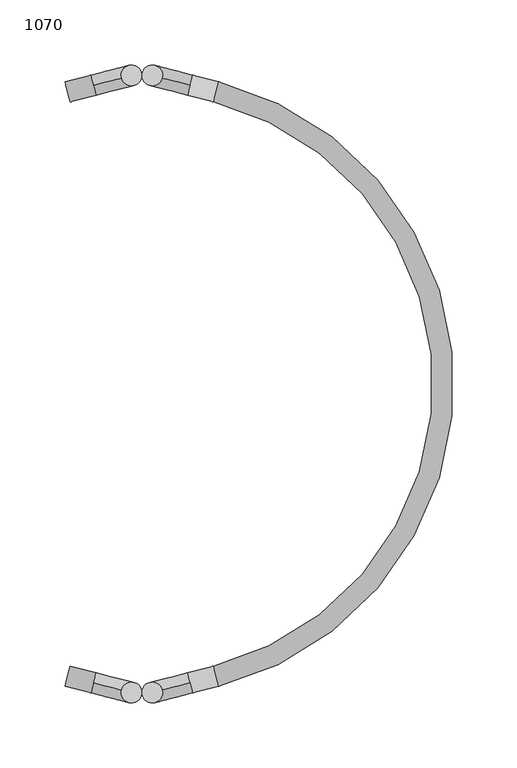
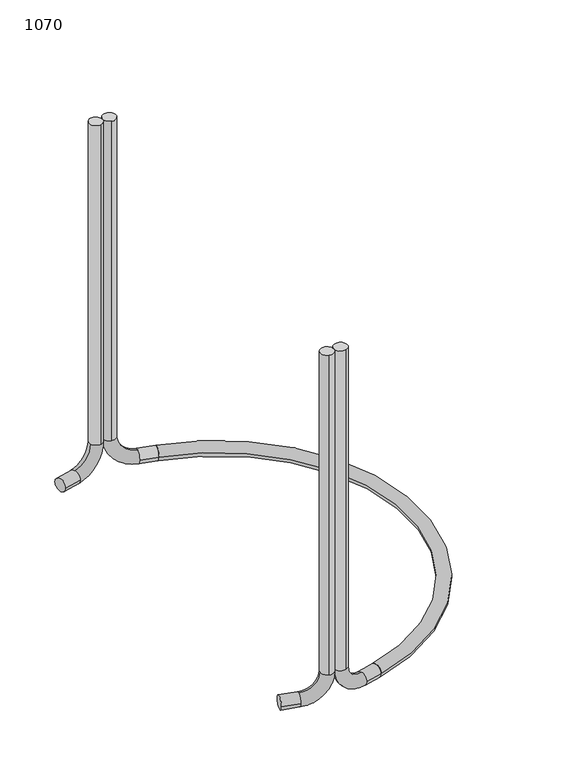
"""IFC4 building model written with IfcOpenShell, lengths in millimetres: proxy geometry, 1070."""

from ifc_helpers import new_model, si_unit, point, frame, origin, place, context, project, spatial, circle_curve, ellipse_curve, trimmed, source, transform, mapped, element, save
from ifc_brep_helpers import plane_surface, cylinder_surface, revolved_surface, advanced_brep


def proxy_1070_40b6016d(model_context):
    return source(origin(), model_context, "Body", "AdvancedBrep", [
        advanced_brep(
        [(-5.9796926, 229.4517589, -101.6), (-5.9796926, 229.4517589, -501.65), (-0.2452379, 239.1018285, -501.65), (-9.8953074, 244.8362832, -501.65), (-9.8953074, 244.8362832, -101.6), (-37.168096, 229.7043527, -539.75), (-39.1259034, 237.3966149, -531.8125), (-37.168096, 229.7043527, -523.875), (-15.6297621, 235.1862136, -501.65), (-35.2102885, 222.0120906, -531.8125), (-55.21017, 216.9217913, -531.8125), (-59.1257849, 232.3063155, -531.8125)],
        [
            (0, 1),
            (1, 2, circle_curve(frame((-7.9375, 237.144021, -501.65), z_axis=(0.0, 0.0, 1.0), x_axis=(0.24665290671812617, -0.9691038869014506, 0.0)), 7.9375)),
            (2, 3, circle_curve(frame((-7.9375, 237.144021, -501.65), z_axis=(0.0, 0.0, 1.0), x_axis=(0.24665290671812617, -0.9691038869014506, 0.0)), 7.9375)),
            (3, 4),
            (4, 0, circle_curve(frame((-7.9375, 237.144021, -101.6), z_axis=(0.0, 0.0, -1.0), x_axis=(0.24665290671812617, -0.9691038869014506, 0.0)), 7.9375)),
            (2, 5, circle_curve(frame((-37.168096, 229.7043527, -501.65), z_axis=(-0.24665290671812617, 0.9691038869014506, 0.0), x_axis=(0.9691038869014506, 0.24665290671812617, 0.0)), 38.1)),
            (5, 6, circle_curve(frame((-37.168096, 229.7043527, -531.8125), z_axis=(0.9691038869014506, 0.24665290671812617, 0.0), x_axis=(0.0, 0.0, -1.0)), 7.9375)),
            (6, 7, circle_curve(frame((-37.168096, 229.7043527, -531.8125), z_axis=(0.9691038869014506, 0.24665290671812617, 0.0), x_axis=(0.0, 0.0, -1.0)), 7.9375)),
            (7, 8, circle_curve(frame((-37.168096, 229.7043527, -501.65), z_axis=(0.24665290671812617, -0.9691038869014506, 0.0), x_axis=(0.9691038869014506, 0.24665290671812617, 0.0)), 22.225)),
            (8, 3, circle_curve(frame((-7.9375, 237.144021, -501.65), z_axis=(0.0, 0.0, -1.0), x_axis=(0.9691038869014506, 0.24665290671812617, 0.0)), 7.9375)),
            (9, 10),
            (10, 11, circle_curve(frame((-57.1679775, 224.6140534, -531.8125), z_axis=(0.9691038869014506, 0.24665290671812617, 0.0), x_axis=(0.24665290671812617, -0.9691038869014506, 0.0)), 7.9375)),
            (11, 6),
            (5, 9, circle_curve(frame((-37.168096, 229.7043527, -531.8125), z_axis=(-0.9691038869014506, -0.24665290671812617, 0.0), x_axis=(0.24665290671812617, -0.9691038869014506, 0.0)), 7.9375)),
            (9, 7, circle_curve(frame((-37.168096, 229.7043527, -531.8125), z_axis=(-0.9691038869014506, -0.24665290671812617, 0.0), x_axis=(0.24665290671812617, -0.9691038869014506, 0.0)), 7.9375)),
            (11, 10, circle_curve(frame((-57.1679775, 224.6140534, -531.8125), z_axis=(0.9691038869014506, 0.24665290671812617, 0.0), x_axis=(0.24665290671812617, -0.9691038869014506, 0.0)), 7.9375)),
            (1, 8, circle_curve(frame((-7.9375, 237.144021, -501.65), z_axis=(0.0, 0.0, -1.0), x_axis=(0.9691038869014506, 0.24665290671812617, 0.0)), 7.9375)),
            (0, 4, circle_curve(frame((-7.9375, 237.144021, -101.6), z_axis=(0.0, 0.0, -1.0), x_axis=(0.24665290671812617, -0.9691038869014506, 0.0)), 7.9375)),
        ],
        [
            cylinder_surface(frame((-7.9375, 237.144021, -101.6), z_axis=(0.0, 0.0, -1.0), x_axis=(0.24665290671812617, -0.9691038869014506, 0.0)), 7.9375),
            revolved_surface(trimmed(ellipse_curve(frame((-7.9375, 237.144021, -501.65), z_axis=(0.0, 0.0, 1.0), x_axis=(0.9691038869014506, 0.24665290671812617, 0.0)), 7.9375, 7.9375), [point((-0.2452379, 239.1018285, -501.65))], [point((-15.6297621, 235.1862136, -501.65))], True, "CARTESIAN"), (-37.168096, 229.7043527, -501.65), (-0.24665290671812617, 0.9691038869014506, 0.0)),
            cylinder_surface(frame((-37.168096, 229.7043527, -531.8125), z_axis=(-0.9691038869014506, -0.24665290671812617, 0.0), x_axis=(0.24665290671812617, -0.9691038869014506, 0.0)), 7.9375),
            revolved_surface(trimmed(ellipse_curve(frame((-7.9375, 237.144021, -501.65), z_axis=(0.0, 0.0, 1.0), x_axis=(0.9691038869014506, 0.24665290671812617, 0.0)), 7.9375, 7.9375), [point((-15.6297621, 235.1862136, -501.65))], [point((-0.2452379, 239.1018285, -501.65))], True, "CARTESIAN"), (-37.168096, 229.7043527, -501.65), (-0.24665290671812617, 0.9691038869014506, 0.0)),
            plane_surface(frame((-57.1679775, 224.6140534, -531.8125), z_axis=(-0.9691038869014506, -0.24665290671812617, 0.0), x_axis=(0.0, 0.0, -1.0))),
            plane_surface(frame((-7.9375, 237.144021, -101.6), z_axis=(0.0, 0.0, 1.0), x_axis=(0.9691038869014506, 0.24665290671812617, 0.0))),
        ],
        [
            (0, [[1, 2, 3, 4, 5]]),
            (1, [[6, 7, 8, 9, 10, -3]]),
            (2, [[11, 12, 13, -7, 14]]),
            (2, [[-11, 15, -8, -13, 16]]),
            (3, [[-6, -2, 17, -9, -15, -14]]),
            (0, [[-1, 18, -4, -10, -17]]),
            (4, [[-16, -12]]),
            (5, [[-5, -18]]),
        ],
    ),
        advanced_brep(
        [(-9.8953074, -244.8362832, -101.6), (-9.8953074, -244.8362832, -501.65), (-0.2452379, -239.1018285, -501.65), (-5.9796926, -229.4517589, -501.65), (-5.9796926, -229.4517589, -101.6), (-37.168096, -229.7043527, -539.75), (-35.2102885, -222.0120906, -531.8125), (-37.168096, -229.7043527, -523.875), (-15.6297621, -235.1862136, -501.65), (-39.1259034, -237.3966149, -531.8125), (-59.1257849, -232.3063155, -531.8125), (-55.21017, -216.9217913, -531.8125)],
        [
            (0, 1),
            (1, 2, circle_curve(frame((-7.9375, -237.144021, -501.65), z_axis=(0.0, 0.0, 1.0), x_axis=(-0.24665290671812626, -0.9691038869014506, 0.0)), 7.9375)),
            (2, 3, circle_curve(frame((-7.9375, -237.144021, -501.65), z_axis=(0.0, 0.0, 1.0), x_axis=(-0.24665290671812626, -0.9691038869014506, 0.0)), 7.9375)),
            (3, 4),
            (4, 0, circle_curve(frame((-7.9375, -237.144021, -101.6), z_axis=(0.0, 0.0, -1.0), x_axis=(-0.24665290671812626, -0.9691038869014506, 0.0)), 7.9375)),
            (2, 5, circle_curve(frame((-37.168096, -229.7043527, -501.65), z_axis=(0.24665290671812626, 0.9691038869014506, 0.0), x_axis=(0.9691038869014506, -0.24665290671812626, 0.0)), 38.1)),
            (5, 6, circle_curve(frame((-37.168096, -229.7043527, -531.8125), z_axis=(0.9691038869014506, -0.24665290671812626, 0.0), x_axis=(0.0, 0.0, -1.0)), 7.9375)),
            (6, 7, circle_curve(frame((-37.168096, -229.7043527, -531.8125), z_axis=(0.9691038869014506, -0.24665290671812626, 0.0), x_axis=(0.0, 0.0, -1.0)), 7.9375)),
            (7, 8, circle_curve(frame((-37.168096, -229.7043527, -501.65), z_axis=(-0.24665290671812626, -0.9691038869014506, 0.0), x_axis=(0.9691038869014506, -0.24665290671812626, 0.0)), 22.225)),
            (8, 3, circle_curve(frame((-7.9375, -237.144021, -501.65), z_axis=(0.0, 0.0, -1.0), x_axis=(0.9691038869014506, -0.24665290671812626, 0.0)), 7.9375)),
            (9, 10),
            (10, 11, circle_curve(frame((-57.1679775, -224.6140534, -531.8125), z_axis=(0.9691038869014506, -0.24665290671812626, 0.0), x_axis=(-0.24665290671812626, -0.9691038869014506, 0.0)), 7.9375)),
            (11, 6),
            (5, 9, circle_curve(frame((-37.168096, -229.7043527, -531.8125), z_axis=(-0.9691038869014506, 0.24665290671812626, 0.0), x_axis=(-0.24665290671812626, -0.9691038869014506, 0.0)), 7.9375)),
            (9, 7, circle_curve(frame((-37.168096, -229.7043527, -531.8125), z_axis=(-0.9691038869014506, 0.24665290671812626, 0.0), x_axis=(-0.24665290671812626, -0.9691038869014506, 0.0)), 7.9375)),
            (11, 10, circle_curve(frame((-57.1679775, -224.6140534, -531.8125), z_axis=(0.9691038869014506, -0.24665290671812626, 0.0), x_axis=(-0.24665290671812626, -0.9691038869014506, 0.0)), 7.9375)),
            (1, 8, circle_curve(frame((-7.9375, -237.144021, -501.65), z_axis=(0.0, 0.0, -1.0), x_axis=(0.9691038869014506, -0.24665290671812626, 0.0)), 7.9375)),
            (0, 4, circle_curve(frame((-7.9375, -237.144021, -101.6), z_axis=(0.0, 0.0, -1.0), x_axis=(-0.24665290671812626, -0.9691038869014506, 0.0)), 7.9375)),
        ],
        [
            cylinder_surface(frame((-7.9375, -237.144021, -101.6), z_axis=(0.0, 0.0, -1.0), x_axis=(-0.24665290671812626, -0.9691038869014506, 0.0)), 7.9375),
            revolved_surface(trimmed(ellipse_curve(frame((-7.9375, -237.144021, -501.65), z_axis=(0.0, 0.0, 1.0), x_axis=(0.9691038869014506, -0.24665290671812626, 0.0)), 7.9375, 7.9375), [point((-0.2452379, -239.1018285, -501.65))], [point((-15.6297621, -235.1862136, -501.65))], True, "CARTESIAN"), (-37.168096, -229.7043527, -501.65), (0.24665290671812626, 0.9691038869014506, 0.0)),
            cylinder_surface(frame((-37.168096, -229.7043527, -531.8125), z_axis=(-0.9691038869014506, 0.24665290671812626, 0.0), x_axis=(-0.24665290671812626, -0.9691038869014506, 0.0)), 7.9375),
            revolved_surface(trimmed(ellipse_curve(frame((-7.9375, -237.144021, -501.65), z_axis=(0.0, 0.0, 1.0), x_axis=(0.9691038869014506, -0.24665290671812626, 0.0)), 7.9375, 7.9375), [point((-15.6297621, -235.1862136, -501.65))], [point((-0.2452379, -239.1018285, -501.65))], True, "CARTESIAN"), (-37.168096, -229.7043527, -501.65), (0.24665290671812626, 0.9691038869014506, 0.0)),
            plane_surface(frame((-57.1679775, -224.6140534, -531.8125), z_axis=(-0.9691038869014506, 0.24665290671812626, 0.0), x_axis=(0.0, 0.0, -1.0))),
            plane_surface(frame((-7.9375, -237.144021, -101.6), z_axis=(0.0, 0.0, 1.0), x_axis=(0.9691038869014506, -0.24665290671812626, 0.0))),
        ],
        [
            (0, [[1, 2, 3, 4, 5]]),
            (1, [[6, 7, 8, 9, 10, -3]]),
            (2, [[11, 12, 13, -7, 14]]),
            (2, [[-11, 15, -8, -13, 16]]),
            (3, [[-6, -2, 17, -9, -15, -14]]),
            (0, [[-1, 18, -4, -10, -17]]),
            (4, [[-16, -12]]),
            (5, [[-5, -18]]),
        ],
    ),
        advanced_brep(
        [(59.1257849, 232.3063155, -531.8125), (59.1257849, -232.3063155, -531.8125), (55.21017, -216.9217913, -531.8125), (55.21017, 216.9217913, -531.8125)],
        [
            (0, 1, circle_curve(frame((0.0, 0.0, -531.8125), z_axis=(0.0, 0.0, -1.0), x_axis=(0.24665290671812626, 0.9691038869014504, 0.0)), 239.7125)),
            (1, 2, circle_curve(frame((57.1679775, -224.6140534, -531.8125), z_axis=(0.9691038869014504, 0.2466529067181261, 0.0), x_axis=(0.2466529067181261, -0.9691038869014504, 0.0)), 7.9375)),
            (2, 3, circle_curve(frame((0.0, 0.0, -531.8125), z_axis=(0.0, 0.0, 1.0), x_axis=(0.24665290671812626, 0.9691038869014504, 0.0)), 223.8375)),
            (3, 0, circle_curve(frame((57.1679775, 224.6140534, -531.8125), z_axis=(0.9691038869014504, -0.24665290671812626, 0.0), x_axis=(0.24665290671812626, 0.9691038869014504, 0.0)), 7.9375)),
            (1, 2, circle_curve(frame((57.1679775, -224.6140534, -531.8125), z_axis=(-0.9691038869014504, -0.2466529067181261, 0.0), x_axis=(0.2466529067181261, -0.9691038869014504, 0.0)), 7.9375)),
            (3, 0, circle_curve(frame((57.1679775, 224.6140534, -531.8125), z_axis=(-0.9691038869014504, 0.24665290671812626, 0.0), x_axis=(0.24665290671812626, 0.9691038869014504, 0.0)), 7.9375)),
        ],
        [
            revolved_surface(trimmed(ellipse_curve(frame((57.1679775, 224.6140534, -531.8125), z_axis=(-0.9691038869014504, 0.24665290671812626, 0.0), x_axis=(0.24665290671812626, 0.9691038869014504, 0.0)), 7.9375, 7.9375), [point((59.1257849, 232.3063155, -531.8125))], [point((55.21017, 216.9217913, -531.8125))], True, "CARTESIAN"), (0.0, 0.0, -531.8125), (0.0, 0.0, -1.0)),
            plane_surface(frame((61.0107809, -239.7125, -531.8125), z_axis=(-0.9691038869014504, -0.24665290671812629, 0.0), x_axis=(-0.24665290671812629, 0.9691038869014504, 0.0))),
            plane_surface(frame((0.0, 0.0, -531.8125), z_axis=(-0.9691038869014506, 0.24665290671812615, 0.0), x_axis=(0.24665290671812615, 0.9691038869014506, 0.0))),
            revolved_surface(trimmed(ellipse_curve(frame((57.1679775, 224.6140534, -531.8125), z_axis=(-0.9691038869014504, 0.24665290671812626, 0.0), x_axis=(0.24665290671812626, 0.9691038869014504, 0.0)), 7.9375, 7.9375), [point((55.21017, 216.9217913, -531.8125))], [point((59.1257849, 232.3063155, -531.8125))], True, "CARTESIAN"), (0.0, 0.0, -531.8125), (0.0, 0.0, -1.0)),
        ],
        [
            (0, [[1, 2, 3, 4]]),
            (1, [[5, -2]]),
            (2, [[-4, 6]]),
            (3, [[-1, -6, -3, -5]]),
        ],
    ),
        advanced_brep(
        [(5.9796926, -229.4517589, -101.6), (5.9796926, -229.4517589, -501.65), (0.2452379, -239.1018285, -501.65), (9.8953074, -244.8362832, -501.65), (9.8953074, -244.8362832, -101.6), (37.168096, -229.7043527, -539.75), (39.1259034, -237.3966149, -531.8125), (37.168096, -229.7043527, -523.875), (15.6297621, -235.1862136, -501.65), (35.2102885, -222.0120906, -531.8125), (55.21017, -216.9217913, -531.8125), (59.1257849, -232.3063155, -531.8125)],
        [
            (0, 1),
            (1, 2, circle_curve(frame((7.9375, -237.144021, -501.65), z_axis=(0.0, 0.0, 1.0), x_axis=(-0.24665290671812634, 0.9691038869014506, 0.0)), 7.9375)),
            (2, 3, circle_curve(frame((7.9375, -237.144021, -501.65), z_axis=(0.0, 0.0, 1.0), x_axis=(-0.24665290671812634, 0.9691038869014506, 0.0)), 7.9375)),
            (3, 4),
            (4, 0, circle_curve(frame((7.9375, -237.144021, -101.6), z_axis=(0.0, 0.0, -1.0), x_axis=(-0.24665290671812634, 0.9691038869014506, 0.0)), 7.9375)),
            (2, 5, circle_curve(frame((37.168096, -229.7043527, -501.65), z_axis=(0.24665290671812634, -0.9691038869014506, 0.0), x_axis=(-0.9691038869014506, -0.24665290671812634, 0.0)), 38.1)),
            (5, 6, circle_curve(frame((37.168096, -229.7043527, -531.8125), z_axis=(-0.9691038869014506, -0.24665290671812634, 0.0), x_axis=(0.0, 0.0, -1.0)), 7.9375)),
            (6, 7, circle_curve(frame((37.168096, -229.7043527, -531.8125), z_axis=(-0.9691038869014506, -0.24665290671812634, 0.0), x_axis=(0.0, 0.0, -1.0)), 7.9375)),
            (7, 8, circle_curve(frame((37.168096, -229.7043527, -501.65), z_axis=(-0.24665290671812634, 0.9691038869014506, 0.0), x_axis=(-0.9691038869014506, -0.24665290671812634, 0.0)), 22.225)),
            (8, 3, circle_curve(frame((7.9375, -237.144021, -501.65), z_axis=(0.0, 0.0, -1.0), x_axis=(-0.9691038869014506, -0.24665290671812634, 0.0)), 7.9375)),
            (9, 10),
            (10, 11, circle_curve(frame((57.1679775, -224.6140534, -531.8125), z_axis=(-0.9691038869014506, -0.24665290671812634, 0.0), x_axis=(-0.24665290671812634, 0.9691038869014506, 0.0)), 7.9375)),
            (11, 6),
            (5, 9, circle_curve(frame((37.168096, -229.7043527, -531.8125), z_axis=(0.9691038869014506, 0.24665290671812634, 0.0), x_axis=(-0.24665290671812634, 0.9691038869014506, 0.0)), 7.9375)),
            (9, 7, circle_curve(frame((37.168096, -229.7043527, -531.8125), z_axis=(0.9691038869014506, 0.24665290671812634, 0.0), x_axis=(-0.24665290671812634, 0.9691038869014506, 0.0)), 7.9375)),
            (11, 10, circle_curve(frame((57.1679775, -224.6140534, -531.8125), z_axis=(-0.9691038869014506, -0.24665290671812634, 0.0), x_axis=(-0.24665290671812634, 0.9691038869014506, 0.0)), 7.9375)),
            (1, 8, circle_curve(frame((7.9375, -237.144021, -501.65), z_axis=(0.0, 0.0, -1.0), x_axis=(-0.9691038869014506, -0.24665290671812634, 0.0)), 7.9375)),
            (0, 4, circle_curve(frame((7.9375, -237.144021, -101.6), z_axis=(0.0, 0.0, -1.0), x_axis=(-0.24665290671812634, 0.9691038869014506, 0.0)), 7.9375)),
        ],
        [
            cylinder_surface(frame((7.9375, -237.144021, -101.6), z_axis=(0.0, 0.0, -1.0), x_axis=(-0.24665290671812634, 0.9691038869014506, 0.0)), 7.9375),
            revolved_surface(trimmed(ellipse_curve(frame((7.9375, -237.144021, -501.65), z_axis=(0.0, 0.0, 1.0), x_axis=(-0.9691038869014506, -0.24665290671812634, 0.0)), 7.9375, 7.9375), [point((0.2452379, -239.1018285, -501.65))], [point((15.6297621, -235.1862136, -501.65))], True, "CARTESIAN"), (37.168096, -229.7043527, -501.65), (0.24665290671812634, -0.9691038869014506, 0.0)),
            cylinder_surface(frame((37.168096, -229.7043527, -531.8125), z_axis=(0.9691038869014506, 0.24665290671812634, 0.0), x_axis=(-0.24665290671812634, 0.9691038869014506, 0.0)), 7.9375),
            revolved_surface(trimmed(ellipse_curve(frame((7.9375, -237.144021, -501.65), z_axis=(0.0, 0.0, 1.0), x_axis=(-0.9691038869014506, -0.24665290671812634, 0.0)), 7.9375, 7.9375), [point((15.6297621, -235.1862136, -501.65))], [point((0.2452379, -239.1018285, -501.65))], True, "CARTESIAN"), (37.168096, -229.7043527, -501.65), (0.24665290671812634, -0.9691038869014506, 0.0)),
            plane_surface(frame((57.1679775, -224.6140534, -531.8125), z_axis=(0.9691038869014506, 0.24665290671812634, 0.0), x_axis=(0.0, 0.0, -1.0))),
            plane_surface(frame((7.9375, -237.144021, -101.6), z_axis=(0.0, 0.0, 1.0), x_axis=(-0.9691038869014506, -0.24665290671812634, 0.0))),
        ],
        [
            (0, [[1, 2, 3, 4, 5]]),
            (1, [[6, 7, 8, 9, 10, -3]]),
            (2, [[11, 12, 13, -7, 14]]),
            (2, [[-11, 15, -8, -13, 16]]),
            (3, [[-6, -2, 17, -9, -15, -14]]),
            (0, [[-1, 18, -4, -10, -17]]),
            (4, [[-16, -12]]),
            (5, [[-5, -18]]),
        ],
    ),
        advanced_brep(
        [(9.8953074, 244.8362832, -101.6), (9.8953074, 244.8362832, -501.65), (0.2452379, 239.1018285, -501.65), (5.9796926, 229.4517589, -501.65), (5.9796926, 229.4517589, -101.6), (37.168096, 229.7043527, -539.75), (35.2102885, 222.0120906, -531.8125), (37.168096, 229.7043527, -523.875), (15.6297621, 235.1862136, -501.65), (39.1259034, 237.3966149, -531.8125), (59.1257849, 232.3063155, -531.8125), (55.21017, 216.9217913, -531.8125)],
        [
            (0, 1),
            (1, 2, circle_curve(frame((7.9375, 237.144021, -501.65), z_axis=(0.0, 0.0, 1.0), x_axis=(0.2466529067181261, 0.9691038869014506, 0.0)), 7.9375)),
            (2, 3, circle_curve(frame((7.9375, 237.144021, -501.65), z_axis=(0.0, 0.0, 1.0), x_axis=(0.2466529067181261, 0.9691038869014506, 0.0)), 7.9375)),
            (3, 4),
            (4, 0, circle_curve(frame((7.9375, 237.144021, -101.6), z_axis=(0.0, 0.0, -1.0), x_axis=(0.2466529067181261, 0.9691038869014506, 0.0)), 7.9375)),
            (2, 5, circle_curve(frame((37.168096, 229.7043527, -501.65), z_axis=(-0.2466529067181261, -0.9691038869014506, 0.0), x_axis=(-0.9691038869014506, 0.2466529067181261, 0.0)), 38.1)),
            (5, 6, circle_curve(frame((37.168096, 229.7043527, -531.8125), z_axis=(-0.9691038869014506, 0.2466529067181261, 0.0), x_axis=(0.0, 0.0, -1.0)), 7.9375)),
            (6, 7, circle_curve(frame((37.168096, 229.7043527, -531.8125), z_axis=(-0.9691038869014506, 0.2466529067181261, 0.0), x_axis=(0.0, 0.0, -1.0)), 7.9375)),
            (7, 8, circle_curve(frame((37.168096, 229.7043527, -501.65), z_axis=(0.2466529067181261, 0.9691038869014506, 0.0), x_axis=(-0.9691038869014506, 0.2466529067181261, 0.0)), 22.225)),
            (8, 3, circle_curve(frame((7.9375, 237.144021, -501.65), z_axis=(0.0, 0.0, -1.0), x_axis=(-0.9691038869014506, 0.2466529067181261, 0.0)), 7.9375)),
            (9, 10),
            (10, 11, circle_curve(frame((57.1679775, 224.6140534, -531.8125), z_axis=(-0.9691038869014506, 0.2466529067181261, 0.0), x_axis=(0.2466529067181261, 0.9691038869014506, 0.0)), 7.9375)),
            (11, 6),
            (5, 9, circle_curve(frame((37.168096, 229.7043527, -531.8125), z_axis=(0.9691038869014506, -0.2466529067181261, 0.0), x_axis=(0.2466529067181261, 0.9691038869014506, 0.0)), 7.9375)),
            (9, 7, circle_curve(frame((37.168096, 229.7043527, -531.8125), z_axis=(0.9691038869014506, -0.2466529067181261, 0.0), x_axis=(0.2466529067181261, 0.9691038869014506, 0.0)), 7.9375)),
            (11, 10, circle_curve(frame((57.1679775, 224.6140534, -531.8125), z_axis=(-0.9691038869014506, 0.2466529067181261, 0.0), x_axis=(0.2466529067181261, 0.9691038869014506, 0.0)), 7.9375)),
            (1, 8, circle_curve(frame((7.9375, 237.144021, -501.65), z_axis=(0.0, 0.0, -1.0), x_axis=(-0.9691038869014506, 0.2466529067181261, 0.0)), 7.9375)),
            (0, 4, circle_curve(frame((7.9375, 237.144021, -101.6), z_axis=(0.0, 0.0, -1.0), x_axis=(0.2466529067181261, 0.9691038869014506, 0.0)), 7.9375)),
        ],
        [
            cylinder_surface(frame((7.9375, 237.144021, -101.6), z_axis=(0.0, 0.0, -1.0), x_axis=(0.2466529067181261, 0.9691038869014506, 0.0)), 7.9375),
            revolved_surface(trimmed(ellipse_curve(frame((7.9375, 237.144021, -501.65), z_axis=(0.0, 0.0, 1.0), x_axis=(-0.9691038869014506, 0.2466529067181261, 0.0)), 7.9375, 7.9375), [point((0.2452379, 239.1018285, -501.65))], [point((15.6297621, 235.1862136, -501.65))], True, "CARTESIAN"), (37.168096, 229.7043527, -501.65), (-0.2466529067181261, -0.9691038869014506, 0.0)),
            cylinder_surface(frame((37.168096, 229.7043527, -531.8125), z_axis=(0.9691038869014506, -0.2466529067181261, 0.0), x_axis=(0.2466529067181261, 0.9691038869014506, 0.0)), 7.9375),
            revolved_surface(trimmed(ellipse_curve(frame((7.9375, 237.144021, -501.65), z_axis=(0.0, 0.0, 1.0), x_axis=(-0.9691038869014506, 0.2466529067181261, 0.0)), 7.9375, 7.9375), [point((15.6297621, 235.1862136, -501.65))], [point((0.2452379, 239.1018285, -501.65))], True, "CARTESIAN"), (37.168096, 229.7043527, -501.65), (-0.2466529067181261, -0.9691038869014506, 0.0)),
            plane_surface(frame((57.1679775, 224.6140534, -531.8125), z_axis=(0.9691038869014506, -0.2466529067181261, 0.0), x_axis=(0.0, 0.0, -1.0))),
            plane_surface(frame((7.9375, 237.144021, -101.6), z_axis=(0.0, 0.0, 1.0), x_axis=(-0.9691038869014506, 0.2466529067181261, 0.0))),
        ],
        [
            (0, [[1, 2, 3, 4, 5]]),
            (1, [[6, 7, 8, 9, 10, -3]]),
            (2, [[11, 12, 13, -7, 14]]),
            (2, [[-11, 15, -8, -13, 16]]),
            (3, [[-6, -2, 17, -9, -15, -14]]),
            (0, [[-1, 18, -4, -10, -17]]),
            (4, [[-16, -12]]),
            (5, [[-5, -18]]),
        ],
    ),
    ])


if __name__ == "__main__":
    model = new_model("IFC4")
    model_context = context("Model", 3, world=origin())
    ifc_project = project(units=[si_unit("LENGTHUNIT", "METRE", prefix="MILLI")], contexts=[model_context])
    site = spatial("IfcSite", under=ifc_project)
    building = spatial("IfcBuilding", under=site)
    placement = place(None, origin())
    proxy_1070_shape = proxy_1070_40b6016d(model_context)
    element("IfcBuildingElementProxy", 1, Name="1070", ObjectType="1070", at=placement, inside=building, context=model_context, shape_type="MappedRepresentation", body=[
        mapped(proxy_1070_shape, transform((0.0, 0.0, 0.0), x_axis=(1.0, 0.0, 0.0), y_axis=(0.0, 1.0, 0.0), z_axis=(0.0, 0.0, 1.0))),
    ])
    save(model, "model.ifc")
